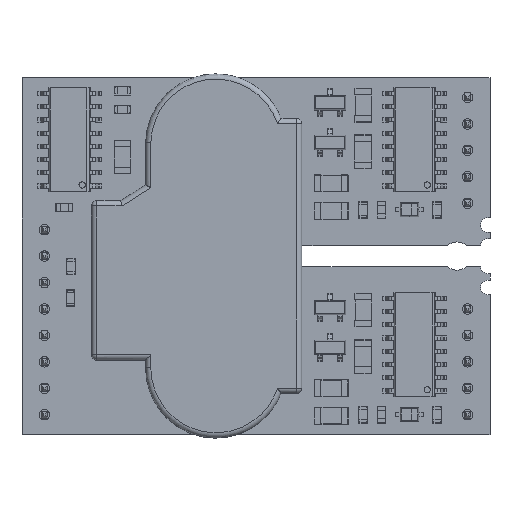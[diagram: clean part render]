
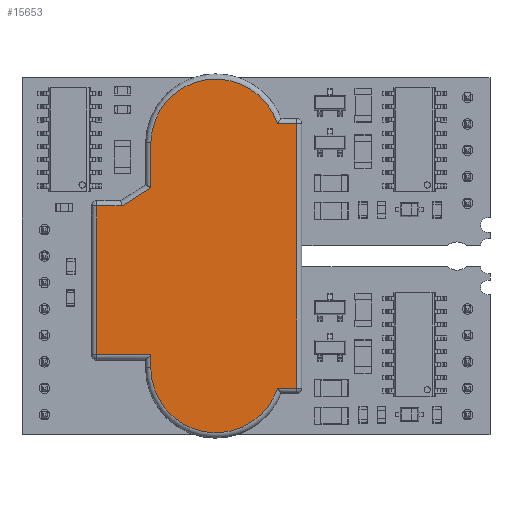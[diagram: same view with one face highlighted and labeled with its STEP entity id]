
A CAD part, top view. The second image highlights one B-rep face of the part: STEP entity #15653.
In plain terms, the highlighted planar face has unit normal (0, 0, 1) as drawn and (0, 1, 0) by its records, which use the part's own axes.
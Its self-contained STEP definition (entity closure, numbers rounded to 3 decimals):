
#2474=CIRCLE('',#16526,6.24);
#2475=CIRCLE('',#16527,6.24);
#3294=VERTEX_POINT('',#22630);
#3297=VERTEX_POINT('',#22636);
#3301=VERTEX_POINT('',#22650);
#3302=VERTEX_POINT('',#22652);
#3303=VERTEX_POINT('',#22654);
#3304=VERTEX_POINT('',#22656);
#3305=VERTEX_POINT('',#22658);
#3306=VERTEX_POINT('',#22660);
#3307=VERTEX_POINT('',#22662);
#3308=VERTEX_POINT('',#22664);
#3309=VERTEX_POINT('',#22666);
#4732=VECTOR('',#18518,1.);
#4735=VECTOR('',#18532,1.);
#4736=VECTOR('',#18533,1.);
#4737=VECTOR('',#18534,1.);
#4738=VECTOR('',#18535,1.);
#4739=VECTOR('',#18538,1.);
#4740=VECTOR('',#18539,1.);
#4741=VECTOR('',#18540,1.);
#4742=VECTOR('',#18543,1.);
#6389=LINE('',#22637,#4732);
#6392=LINE('',#22649,#4735);
#6393=LINE('',#22651,#4736);
#6394=LINE('',#22653,#4737);
#6395=LINE('',#22655,#4738);
#6396=LINE('',#22659,#4739);
#6397=LINE('',#22661,#4740);
#6398=LINE('',#22663,#4741);
#6399=LINE('',#22667,#4742);
#8117=EDGE_CURVE('',#3297,#3294,#6389,.T.);
#8123=EDGE_CURVE('',#3301,#3294,#6392,.T.);
#8124=EDGE_CURVE('',#3302,#3297,#6393,.T.);
#8125=EDGE_CURVE('',#3303,#3302,#6394,.T.);
#8126=EDGE_CURVE('',#3303,#3304,#6395,.T.);
#8127=EDGE_CURVE('',#3304,#3305,#2474,.T.);
#8128=EDGE_CURVE('',#3306,#3305,#6396,.T.);
#8129=EDGE_CURVE('',#3307,#3306,#6397,.T.);
#8130=EDGE_CURVE('',#3308,#3307,#6398,.T.);
#8131=EDGE_CURVE('',#3308,#3309,#2475,.T.);
#8132=EDGE_CURVE('',#3309,#3301,#6399,.T.);
#10731=ORIENTED_EDGE('',*,*,#8123,.T.);
#10732=ORIENTED_EDGE('',*,*,#8117,.F.);
#10733=ORIENTED_EDGE('',*,*,#8124,.F.);
#10734=ORIENTED_EDGE('',*,*,#8125,.F.);
#10735=ORIENTED_EDGE('',*,*,#8126,.T.);
#10736=ORIENTED_EDGE('',*,*,#8127,.T.);
#10737=ORIENTED_EDGE('',*,*,#8128,.F.);
#10738=ORIENTED_EDGE('',*,*,#8129,.F.);
#10739=ORIENTED_EDGE('',*,*,#8130,.F.);
#10740=ORIENTED_EDGE('',*,*,#8131,.T.);
#10741=ORIENTED_EDGE('',*,*,#8132,.T.);
#13925=EDGE_LOOP('',(#10731,#10732,#10733,#10734,#10735,#10736,#10737,#10738,
#10739,#10740,#10741));
#14823=FACE_BOUND('',#13925,.T.);
#15653=ADVANCED_FACE('',(#14823),#26595,.T.);
#16525=AXIS2_PLACEMENT_3D('',#22648,#18531,$);
#16526=AXIS2_PLACEMENT_3D('',#22657,#18536,#18537);
#16527=AXIS2_PLACEMENT_3D('',#22665,#18541,#18542);
#18518=DIRECTION('',(0.,0.,1.));
#18531=DIRECTION('',(0.,1.,0.));
#18532=DIRECTION('',(-0.535,0.,-0.845));
#18533=DIRECTION('',(1.,0.,0.));
#18534=DIRECTION('',(0.,0.,-1.));
#18535=DIRECTION('',(-1.,0.,0.));
#18536=DIRECTION('',(0.,1.,0.));
#18537=DIRECTION('',(-6.129,0.,-1.173));
#18538=DIRECTION('',(0.,0.,-1.));
#18539=DIRECTION('',(-1.,0.,0.));
#18540=DIRECTION('',(0.,0.,1.));
#18541=DIRECTION('',(0.,1.,0.));
#18542=DIRECTION('',(6.24,0.,0.031));
#18543=DIRECTION('',(-1.,0.,0.));
#22630=CARTESIAN_POINT('',(22.3,10.7,-17.257));
#22636=CARTESIAN_POINT('',(22.3,10.7,-19.7));
#22637=CARTESIAN_POINT('',(22.3,10.7,-14.45));
#22648=CARTESIAN_POINT('',(17.5,10.7,-10.1));
#22649=CARTESIAN_POINT('',(23.649,10.7,-15.125));
#22650=CARTESIAN_POINT('',(24.046,10.7,-14.498));
#22651=CARTESIAN_POINT('',(17.5,10.7,-19.7));
#22652=CARTESIAN_POINT('',(8.,10.7,-19.7));
#22653=CARTESIAN_POINT('',(8.,10.7,-13.85));
#22654=CARTESIAN_POINT('',(8.,10.7,-14.5));
#22655=CARTESIAN_POINT('',(10.625,10.7,-14.5));
#22656=CARTESIAN_POINT('',(6.75,10.7,-14.5));
#22657=CARTESIAN_POINT('',(6.75,10.7,-8.26));
#22658=CARTESIAN_POINT('',(4.8,10.7,-2.333));
#22659=CARTESIAN_POINT('',(4.8,10.7,-5.547));
#22660=CARTESIAN_POINT('',(4.8,10.7,-0.5));
#22661=CARTESIAN_POINT('',(17.5,10.7,-0.5));
#22662=CARTESIAN_POINT('',(30.2,10.7,-0.5));
#22663=CARTESIAN_POINT('',(30.2,10.7,-5.532));
#22664=CARTESIAN_POINT('',(30.2,10.7,-2.333));
#22665=CARTESIAN_POINT('',(28.25,10.7,-8.26));
#22666=CARTESIAN_POINT('',(28.425,10.7,-14.498));
#22667=CARTESIAN_POINT('',(23.582,10.7,-14.498));
#26595=PLANE('',#16525);
